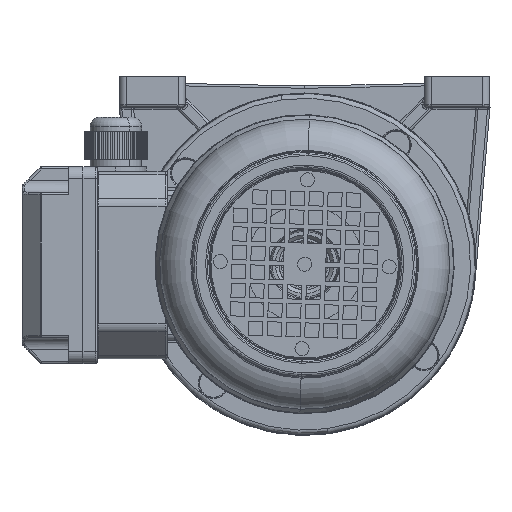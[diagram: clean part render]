
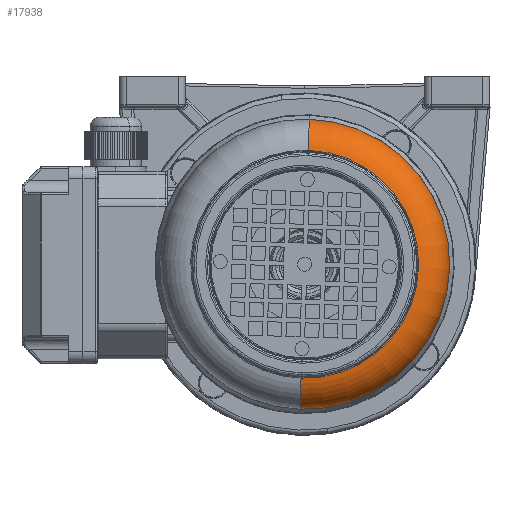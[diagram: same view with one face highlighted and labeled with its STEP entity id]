
A CAD part, front view. The second image highlights one B-rep face of the part: STEP entity #17938.
In plain terms, the highlighted toroidal (fillet/blend) face has major radius 46.75 mm and minor radius 15 mm.
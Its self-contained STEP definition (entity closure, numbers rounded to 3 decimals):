
#455 = DIRECTION ( 'NONE',  ( 0., -1., 0. ) ) ;
#777 = CARTESIAN_POINT ( 'NONE',  ( 11407.538, -26592.948, -48.591 ) ) ;
#2020 = EDGE_CURVE ( 'NONE', #10396, #13996, #83098, .T. ) ;
#2995 = CARTESIAN_POINT ( 'NONE',  ( 11392.652, -26592.948, 0. ) ) ;
#3763 = AXIS2_PLACEMENT_3D ( 'NONE', #51615, #455, #36026 ) ;
#4055 = CARTESIAN_POINT ( 'NONE',  ( 11392.652, -26592.948, 0. ) ) ;
#8925 = DIRECTION ( 'NONE',  ( -1., 0., 0. ) ) ;
#10396 = VERTEX_POINT ( 'NONE', #87388 ) ;
#10865 = FACE_OUTER_BOUND ( 'NONE', #33447, .T. ) ;
#13996 = VERTEX_POINT ( 'NONE', #64434 ) ;
#14158 = CARTESIAN_POINT ( 'NONE',  ( 11392.652, -26592.948, -46.75 ) ) ;
#15036 = AXIS2_PLACEMENT_3D ( 'NONE', #16913, #23236, #74821 ) ;
#16574 = VERTEX_POINT ( 'NONE', #18409 ) ;
#16913 = CARTESIAN_POINT ( 'NONE',  ( 11407.538, -26592.948, 0. ) ) ;
#17725 = DIRECTION ( 'NONE',  ( 0., 0., 1. ) ) ;
#17938 = ADVANCED_FACE ( 'NONE', ( #10865 ), #63704, .T. ) ;
#18409 = CARTESIAN_POINT ( 'NONE',  ( 11392.652, -26592.948, -61.75 ) ) ;
#23236 = DIRECTION ( 'NONE',  ( -1., 0., 0. ) ) ;
#29008 = ORIENTED_EDGE ( 'NONE', *, *, #57927, .T. ) ;
#31837 = AXIS2_PLACEMENT_3D ( 'NONE', #2995, #8925, #61470 ) ;
#33447 = EDGE_LOOP ( 'NONE', ( #29008, #81009, #93456, #77285 ) ) ;
#36026 = DIRECTION ( 'NONE',  ( 0., 0., -1. ) ) ;
#39630 = CIRCLE ( 'NONE', #31837, 61.75 ) ;
#51615 = CARTESIAN_POINT ( 'NONE',  ( 11392.652, -26592.948, 46.75 ) ) ;
#54378 = EDGE_CURVE ( 'NONE', #60170, #16574, #54641, .T. ) ;
#54641 = CIRCLE ( 'NONE', #56239, 15. ) ;
#56239 = AXIS2_PLACEMENT_3D ( 'NONE', #14158, #80366, #73522 ) ;
#56977 = CIRCLE ( 'NONE', #15036, 48.591 ) ;
#57927 = EDGE_CURVE ( 'NONE', #10396, #60170, #56977, .T. ) ;
#60170 = VERTEX_POINT ( 'NONE', #777 ) ;
#61470 = DIRECTION ( 'NONE',  ( 0., 0., 1. ) ) ;
#63704 = TOROIDAL_SURFACE ( 'NONE', #93295, 46.75, 15. ) ;
#64434 = CARTESIAN_POINT ( 'NONE',  ( 11392.652, -26592.948, 61.75 ) ) ;
#73522 = DIRECTION ( 'NONE',  ( 0., 0., 1. ) ) ;
#74821 = DIRECTION ( 'NONE',  ( 0., 0., 1. ) ) ;
#77285 = ORIENTED_EDGE ( 'NONE', *, *, #2020, .F. ) ;
#80366 = DIRECTION ( 'NONE',  ( 0., 1., 0. ) ) ;
#81009 = ORIENTED_EDGE ( 'NONE', *, *, #54378, .T. ) ;
#83098 = CIRCLE ( 'NONE', #3763, 15. ) ;
#87388 = CARTESIAN_POINT ( 'NONE',  ( 11407.538, -26592.948, 48.591 ) ) ;
#92703 = DIRECTION ( 'NONE',  ( -1., 0., 0. ) ) ;
#93295 = AXIS2_PLACEMENT_3D ( 'NONE', #4055, #92703, #17725 ) ;
#93456 = ORIENTED_EDGE ( 'NONE', *, *, #96323, .F. ) ;
#96323 = EDGE_CURVE ( 'NONE', #13996, #16574, #39630, .T. ) ;
